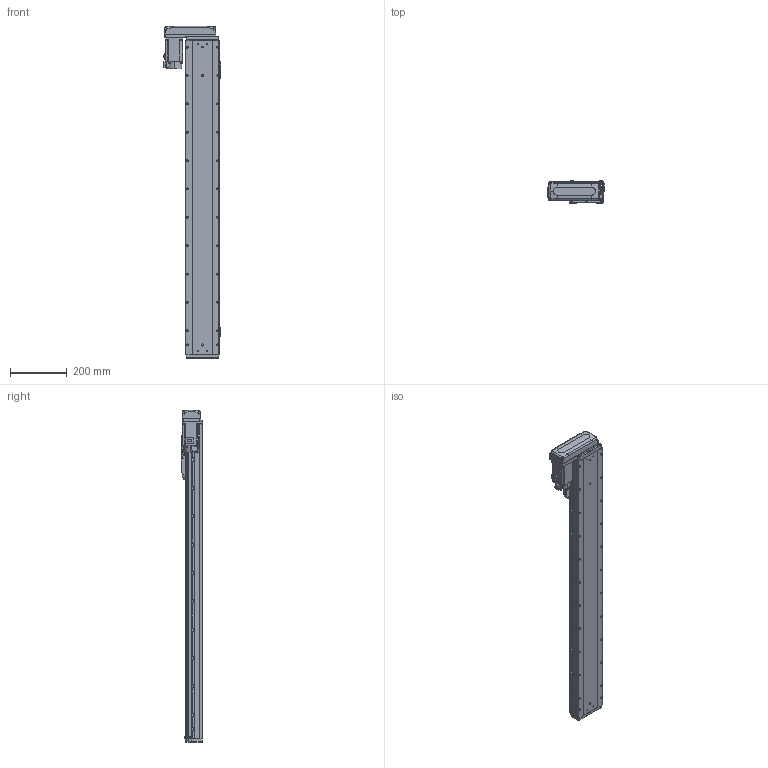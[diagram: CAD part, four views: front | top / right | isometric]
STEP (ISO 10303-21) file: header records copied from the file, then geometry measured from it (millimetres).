
FILE_DESCRIPTION (( 'STEP AP203' ), '1' );
FILE_NAME ('GTH12-900-BR-M40-C4.step', '2025-07-16T03:45:34', ( '' ), ( '' ), 'SwSTEP 2.0', 'SolidWorks 2023', '' );
FILE_SCHEMA (( 'CONFIG_CONTROL_DESIGN' ));
Length unit declared in the file: millimetre
Products named in the file (18): GTH50-024; GTH120-027-1_GTH120-027-2; GTH120-003; GBT 70.1-M3×6; GTH80-028; GTH120-013; GTH80-022; BTH-M3X5X6; GBT96.1-2002 3×0.8; GTH12-900-BR-M40-C4; GTH120-001_900; GTH120-006; GTH120-004; hg-kn43j_-s100_; GTH50-023; GBT 70.1-M5×16; GBT 70.3-M3×8; CTHA86-033_M40B
Assembly tree (59 placements, depth 2):
  GTH12-900-BR-M40-C4
    GTH120-001_900
    GTH120-003
    GTH120-006
    GTH120-004
    GTH120-013
    GBT 70.1-M3×6  x14
    GBT 70.1-M5×16  x10
    GBT 70.3-M3×8  x4
    GTH80-022
    GTH80-028  x2
    GTH50-023  x3
    GTH50-024  x3
    GBT96.1-2002 3×0.8  x6
    BTH-M3X5X6  x8
    hg-kn43j_-s100_
    CTHA86-033_M40B
    GTH120-027-1_GTH120-027-2
Bounding box: 203.5 x 76 x 1170.5 mm (x, y, z)
Volume: 8482268.7 mm3; surface area: 743233.9 mm2
Topology: 61 solids, 61 shells, 2522 faces, 5905 edges, 3625 vertices
Faces by surface type: plane 1288, cylinder 742, cone 304, torus 174, sphere 8, bspline 6
Entity records: 48031 total; most frequent: CARTESIAN_POINT 8138, DIRECTION 7981, ORIENTED_EDGE 7420, EDGE_CURVE 3710, AXIS2_PLACEMENT_3D 2789, VECTOR 2403, LINE 2403, VERTEX_POINT 2346
